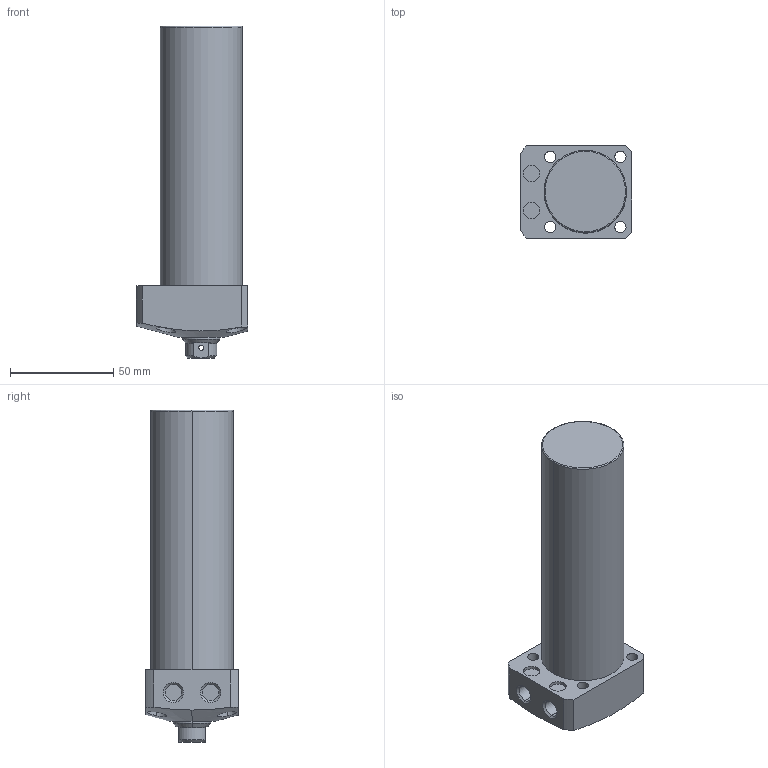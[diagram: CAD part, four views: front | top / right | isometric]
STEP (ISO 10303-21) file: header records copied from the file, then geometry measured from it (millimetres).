
FILE_DESCRIPTION (( 'STEP AP203' ), '1' );
FILE_NAME ('CLL-040CB-100.STEP', '2019-12-21T03:56:47', ( '' ), ( '' ), 'SwSTEP 2.0', 'SolidWorks 2015', '' );
FILE_SCHEMA (( 'CONFIG_CONTROL_DESIGN' ));
Length unit declared in the file: millimetre
Products named in the file (1): CLL-040CB-100
Bounding box: 54 x 45 x 161 mm (x, y, z)
Volume: 208743.6 mm3; surface area: 27966.7 mm2
Topology: 1 solids, 1 shells, 78 faces, 182 edges, 115 vertices
Faces by surface type: cylinder 39, plane 22, cone 15, torus 2
Entity records: 2721 total; most frequent: CARTESIAN_POINT 822, DIRECTION 394, ORIENTED_EDGE 360, EDGE_CURVE 180, AXIS2_PLACEMENT_3D 163, VERTEX_POINT 115, EDGE_LOOP 101, CIRCLE 84
